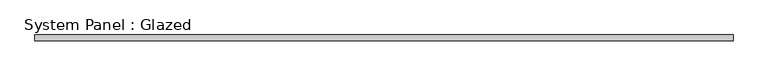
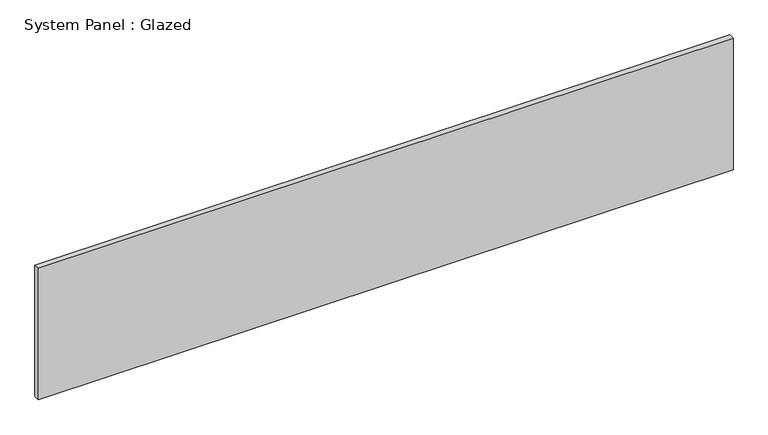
"""IFC4 building model written with IfcOpenShell, lengths in millimetres: plate geometry, System Panel : Glazed."""

import ifcopenshell
import ifcopenshell.guid

model = None  # the IFC model being written
_history = None  # IfcOwnerHistory: only IFC2X3 demands one
_inside = {}  # id of a spatial element -> (the spatial element, [elements in it])
_under = {}  # id of a project, library or spatial element -> (it, [spatial elements below it])
_declared = {}  # id of a project -> (the project, [libraries it declares])
_typed = {}  # id of a type object -> (the type object, [elements of that type])
_made_of = {}  # id of a material, layer set ... -> (it, [elements and type objects made of it])


def new_model(schema):
    """Start an empty IFC model of exactly this schema.

    Asked for "IFC4X3", IfcOpenShell would pick the latest addendum, in which some entities
    have other attributes; the version numbers below select the first issue.
    IFC2X3 requires an IfcOwnerHistory on every rooted entity: one is made here for all.
    """
    global model, _history
    if schema == "IFC4X3":
        model = ifcopenshell.file(schema_version=(4, 3, 0, 0))
    else:
        model = ifcopenshell.file(schema=schema)
    _inside.clear()
    _under.clear()
    _declared.clear()
    _typed.clear()
    _made_of.clear()
    _history = None
    if model.schema == "IFC2X3":
        org = make("IfcOrganization", Name="unknown")
        user = make(
            "IfcPersonAndOrganization",
            ThePerson=make("IfcPerson", FamilyName="unknown"),
            TheOrganization=org,
        )
        app = make(
            "IfcApplication",
            ApplicationDeveloper=org,
            Version="unknown",
            ApplicationFullName="unknown",
            ApplicationIdentifier="unknown",
        )
        _history = make(
            "IfcOwnerHistory",
            OwningUser=user,
            OwningApplication=app,
            ChangeAction="ADDED",
            CreationDate=0,
        )
    return model


def make(cls, **values):
    """One entity of the class cls with the attributes given. An attribute that is None is left unset."""
    return model.create_entity(
        cls, **{name: value for name, value in values.items() if value is not None}
    )


def rooted(cls, **values):
    """An entity with a GlobalId (a new one), such as an element, a storey or a relation."""
    return make(cls, GlobalId=ifcopenshell.guid.new(), OwnerHistory=_history, **values)


def si_unit(unit_type, name, prefix=None):
    """IfcSIUnit, for example si_unit("LENGTHUNIT", "METRE", prefix="MILLI")."""
    return make("IfcSIUnit", UnitType=unit_type, Prefix=prefix, Name=name)


def assignment(units):
    """IfcUnitAssignment: the units of a project."""
    return None if units is None else make("IfcUnitAssignment", Units=units)


def point(xyz):
    """IfcCartesianPoint."""
    return None if xyz is None else make("IfcCartesianPoint", Coordinates=xyz)


def direction(xyz):
    """IfcDirection."""
    return None if xyz is None else make("IfcDirection", DirectionRatios=xyz)


def frame(location, z_axis=None, x_axis=None):
    """IfcAxis2Placement3D, a coordinate frame: its origin and axes. An axis left out is left unset."""
    return make(
        "IfcAxis2Placement3D",
        Location=point(location),
        Axis=direction(z_axis),
        RefDirection=direction(x_axis),
    )


def origin():
    """The frame at (0, 0, 0) with its axes left unset."""
    return frame((0.0, 0.0, 0.0))


def origin_with_axes():
    """The frame at (0, 0, 0) with the z axis (0, 0, 1) and the x axis (1, 0, 0) written out."""
    return frame((0.0, 0.0, 0.0), z_axis=(0.0, 0.0, 1.0), x_axis=(1.0, 0.0, 0.0))


def place(relative_to, where):
    """IfcLocalPlacement: puts the frame where relative to a parent placement (None: the world)."""
    return make(
        "IfcLocalPlacement", PlacementRelTo=relative_to, RelativePlacement=where
    )


def context(
    kind, dimensions, precision=None, world=None, true_north=None, identifier=None
):
    """IfcGeometricRepresentationContext, for example the 3D "Model" context."""
    return make(
        "IfcGeometricRepresentationContext",
        ContextIdentifier=identifier,
        ContextType=kind,
        CoordinateSpaceDimension=dimensions,
        Precision=precision,
        WorldCoordinateSystem=world,
        TrueNorth=true_north,
    )


def project(units=None, contexts=None):
    """IfcProject with its units and contexts."""
    return rooted(
        "IfcProject",
        Name="project",
        RepresentationContexts=contexts,
        UnitsInContext=assignment(units),
    )


def spatial(cls, under=None, at=None, **own):
    """A site, building, storey or space (cls), placed at a placement, below another one or the project."""
    s = rooted(cls, ObjectPlacement=at, **own)
    if under is not None:
        _under.setdefault(under.id(), (under, []))[1].append(s)
    return s


def polyline(points):
    """IfcPolyline through the points."""
    return make("IfcPolyline", Points=[point(p) for p in points])


def outline(outer, holes=None, kind="AREA"):
    """IfcArbitraryClosedProfileDef: a profile drawn as a closed curve; with holes, ...WithVoids."""
    if holes is None:
        return make("IfcArbitraryClosedProfileDef", ProfileType=kind, OuterCurve=outer)
    return make(
        "IfcArbitraryProfileDefWithVoids",
        ProfileType=kind,
        OuterCurve=outer,
        InnerCurves=holes,
    )


def extrude(swept, where, along, depth):
    """IfcExtrudedAreaSolid: the profile swept, set in the frame where, extruded along a direction by depth."""
    return make(
        "IfcExtrudedAreaSolid",
        SweptArea=swept,
        Position=where,
        ExtrudedDirection=direction(along),
        Depth=depth,
    )


def shape(context_of_items, identifier, shape_type, items):
    """IfcShapeRepresentation: the items that make up one representation, for example the "Body"."""
    return make(
        "IfcShapeRepresentation",
        ContextOfItems=context_of_items,
        RepresentationIdentifier=identifier,
        RepresentationType=shape_type,
        Items=items,
    )


def source(mapping_origin, context_of_items, identifier, shape_type, items):
    """IfcRepresentationMap: a shape defined once, which mapped items show again and again."""
    return make(
        "IfcRepresentationMap",
        MappingOrigin=mapping_origin,
        MappedRepresentation=shape(context_of_items, identifier, shape_type, items),
    )


def transform(
    local_origin,
    x_axis=None,
    y_axis=None,
    z_axis=None,
    scale=None,
    scale2=None,
    scale3=None,
    uniform=True,
):
    """IfcCartesianTransformationOperator3D, or its non-uniform kind. x_axis, y_axis, z_axis: its Axis1, 2, 3."""
    if uniform:
        return make(
            "IfcCartesianTransformationOperator3D",
            Axis1=direction(x_axis),
            Axis2=direction(y_axis),
            LocalOrigin=point(local_origin),
            Scale=scale,
            Axis3=direction(z_axis),
        )
    return make(
        "IfcCartesianTransformationOperator3DnonUniform",
        Axis1=direction(x_axis),
        Axis2=direction(y_axis),
        LocalOrigin=point(local_origin),
        Scale=scale,
        Axis3=direction(z_axis),
        Scale2=scale2,
        Scale3=scale3,
    )


def mapped(mapping_source, mapping_target):
    """IfcMappedItem: shows the shape of a source again, moved by a transform."""
    return make(
        "IfcMappedItem", MappingSource=mapping_source, MappingTarget=mapping_target
    )


def made_of(thing, what):
    """Note that an element or type object is made of a material, layer set ...; save() writes the relation."""
    if what is not None:
        _made_of.setdefault(what.id(), (what, []))[1].append(thing)
    return thing


def element(
    cls,
    number,
    at=None,
    inside=None,
    cuts=None,
    type_object=None,
    material=None,
    context=None,
    identifier="Body",
    shape_type=None,
    held_by="IfcProductDefinitionShape",
    body=None,
    shapes=None,
    **own,
):
    """One element of the class cls, such as IfcWall. Its Tag is "e" and its number.

    at: its placement. inside: the storey or other place that contains it. cuts: it is an
    opening in that element (IfcRelVoidsElement). A single representation is given by context,
    identifier, shape_type and body (its items); several are given by shapes. held_by: the class
    of the entity that holds the representations. save() writes the other relations.
    """
    e = rooted(cls, Tag="e%d" % number, ObjectPlacement=at, **own)
    if body is not None:
        shapes = [shape(context, identifier, shape_type, body)]
    if shapes is not None:
        e.Representation = make(held_by, Representations=shapes)
    if inside is not None:
        _inside.setdefault(inside.id(), (inside, []))[1].append(e)
    if cuts is not None:
        rooted(
            "IfcRelVoidsElement", RelatingBuildingElement=cuts, RelatedOpeningElement=e
        )
    if type_object is not None:
        _typed.setdefault(type_object.id(), (type_object, []))[1].append(e)
    return made_of(e, material)


def aggregate(whole, parts):
    """IfcRelAggregates: a whole, such as a stair, and the parts it consists of."""
    return rooted("IfcRelAggregates", RelatingObject=whole, RelatedObjects=parts)


def save(model, path):
    """Write the relations noted so far, then the file.

    IfcRelAggregates (storeys below a building ...), IfcRelContainedInSpatialStructure (elements
    in a storey), IfcRelDefinesByType, IfcRelAssociatesMaterial and IfcRelDeclares: one each for
    every whole, place, type object, material and project.
    """
    for whole, parts in _under.values():
        aggregate(whole, parts)
    for where, things in _inside.values():
        rooted(
            "IfcRelContainedInSpatialStructure",
            RelatedElements=things,
            RelatingStructure=where,
        )
    for kind, things in _typed.values():
        rooted("IfcRelDefinesByType", RelatedObjects=things, RelatingType=kind)
    for what, things in _made_of.values():
        rooted("IfcRelAssociatesMaterial", RelatedObjects=things, RelatingMaterial=what)
    for by, libraries in _declared.values():
        rooted("IfcRelDeclares", RelatingContext=by, RelatedDefinitions=libraries)
    model.write(path)


def system_panel_glazed_0008f13c(model_context):
    return source(origin(), model_context, "Body", "SweptSolid", [
        extrude(outline(polyline([(1524.0, 19.05), (-1524.0, 19.05), (-1524.0, 44.45), (1524.0, 44.45), (1524.0, 19.05)])), origin_with_axes(), (0.0, 0.0, 1.0), 609.6),
    ])


if __name__ == "__main__":
    model = new_model("IFC4")
    model_context = context("Model", 3, world=origin())
    ifc_project = project(units=[si_unit("LENGTHUNIT", "METRE", prefix="MILLI")], contexts=[model_context])
    site = spatial("IfcSite", under=ifc_project)
    building = spatial("IfcBuilding", under=site)
    placement = place(None, origin())
    system_panel_glazed_shape = system_panel_glazed_0008f13c(model_context)
    element("IfcPlate", 1, ObjectType="System Panel : Glazed", at=placement, inside=building, context=model_context, shape_type="MappedRepresentation", body=[
        mapped(system_panel_glazed_shape, transform((0.0, 0.0, 0.0), x_axis=(1.0, 0.0, 0.0), y_axis=(0.0, 1.0, 0.0), z_axis=(0.0, 0.0, 1.0))),
    ])
    save(model, "model.ifc")
